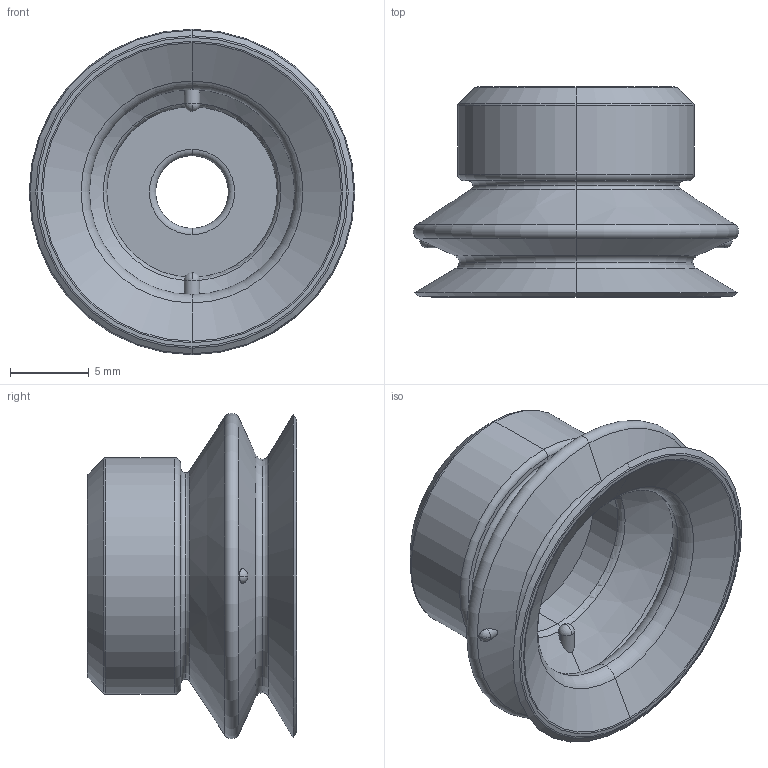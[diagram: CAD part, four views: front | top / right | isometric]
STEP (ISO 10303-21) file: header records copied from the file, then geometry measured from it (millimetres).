
FILE_DESCRIPTION (( 'STEP AP203' ), '1' );
FILE_NAME ('PJG_20--A.STEP', '2018-09-11T14:59:17', ( '' ), ( '' ), 'SwSTEP 2.0', 'SolidWorks 2016', '' );
FILE_SCHEMA (( 'CONFIG_CONTROL_DESIGN' ));
Length unit declared in the file: millimetre
Products named in the file (1): PJG_20--A
Bounding box: 20.62 x 13.3 x 20.62 mm (x, y, z)
Volume: 1398.4 mm3; surface area: 1873 mm2
Topology: 1 solids, 1 shells, 73 faces, 164 edges, 92 vertices
Faces by surface type: torus 30, cone 18, cylinder 14, sphere 8, plane 3
Entity records: 2191 total; most frequent: CARTESIAN_POINT 468, DIRECTION 396, ORIENTED_EDGE 320, AXIS2_PLACEMENT_3D 184, EDGE_CURVE 160, CIRCLE 110, VERTEX_POINT 92, EDGE_LOOP 78
